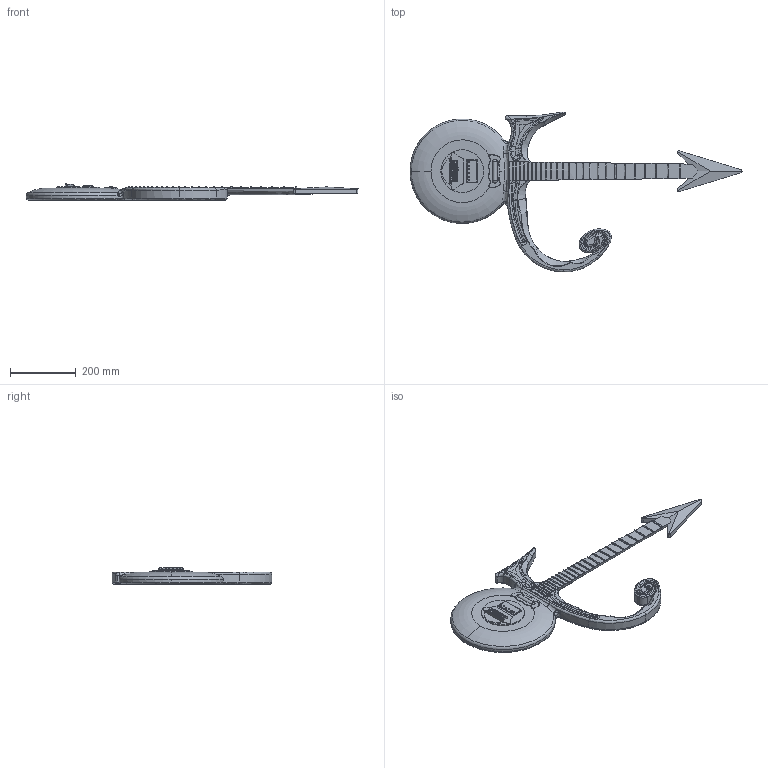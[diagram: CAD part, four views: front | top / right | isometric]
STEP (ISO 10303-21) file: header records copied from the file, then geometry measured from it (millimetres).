
FILE_DESCRIPTION (( 'STEP AP203' ), '1' );
FILE_NAME ('prince full Assem 2.STEP', '2017-09-13T19:53:25', ( '' ), ( '' ), 'SwSTEP 2.0', 'SolidWorks 2015', '' );
FILE_SCHEMA (( 'CONFIG_CONTROL_DESIGN' ));
Length unit declared in the file: inch
Products named in the file (5): PAJ_prince NECK; p1; hardware models_back; hardware models_front; prince full Assem 2
Assembly tree (4 placements, depth 2):
  prince full Assem 2
    p1
    PAJ_prince NECK
    hardware models_front
    hardware models_back
Bounding box: 1008.1 x 485.64 x 49.21 mm (x, y, z)
Volume: 4569188.7 mm3; surface area: 447169.6 mm2
Topology: 4 solids, 4 shells, 718 faces, 1859 edges, 1151 vertices
Faces by surface type: bspline 213, cylinder 183, torus 150, plane 148, cone 20, sphere 4
Entity records: 35973 total; most frequent: CARTESIAN_POINT 19723, ORIENTED_EDGE 3680, DIRECTION 2823, EDGE_CURVE 1840, VERTEX_POINT 1149, AXIS2_PLACEMENT_3D 1147, EDGE_LOOP 749, ADVANCED_FACE 718
